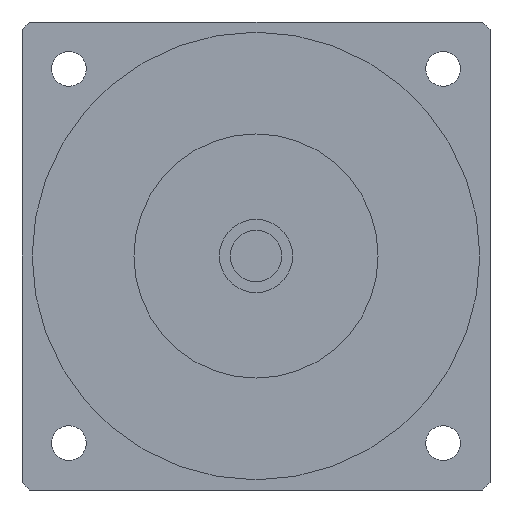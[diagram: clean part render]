
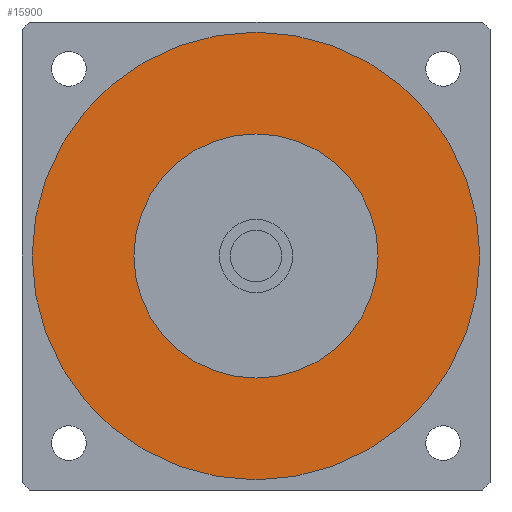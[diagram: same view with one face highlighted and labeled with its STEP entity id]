
A CAD part, left-side view. The second image highlights one B-rep face of the part: STEP entity #15900.
In plain terms, the highlighted planar face has unit normal (-1, 0, 0) as drawn and (0, 0, -1) by its records, which use the part's own axes.
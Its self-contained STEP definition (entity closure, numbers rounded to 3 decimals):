
#15320=CARTESIAN_POINT('',(55.,0.,-42.5));
#15330=VERTEX_POINT('',#15320);
#15420=CARTESIAN_POINT('',(-55.,0.,-42.5));
#15430=VERTEX_POINT('',#15420);
#15460=CARTESIAN_POINT('',(0.,0.,
-42.5));
#15470=DIRECTION('',(0.,0.,1.));
#15480=DIRECTION('',(0.,1.,0.));
#15490=AXIS2_PLACEMENT_3D('',#15460,#15470,#15480);
#15500=CIRCLE('',#15490,55.);
#15510=CARTESIAN_POINT('',(0.,55.,-42.5));
#15520=VERTEX_POINT('',#15510);
#15530=EDGE_CURVE('',#15520,#15430,#15500,.T.);
#15550=EDGE_CURVE('',#15330,#15520,#15500,.T.);
#15600=CARTESIAN_POINT('',(0.,0.,
-42.5));
#15610=DIRECTION('',(0.,0.,1.));
#15620=DIRECTION('',(-1.,0.,0.));
#15630=AXIS2_PLACEMENT_3D('',#15600,#15610,#15620);
#15640=PLANE('',#15630);
#15650=ORIENTED_EDGE('',*,*,#15530,.F.);
#15660=EDGE_CURVE('',#15430,#15330,#15500,.T.);
#15670=ORIENTED_EDGE('',*,*,#15660,.F.);
#15680=ORIENTED_EDGE('',*,*,#15550,.F.);
#15690=EDGE_LOOP('',(#15680,#15670,#15650));
#15700=FACE_OUTER_BOUND('',#15690,.T.);
#15710=CARTESIAN_POINT('',(0.,0.,
-42.5));
#15720=DIRECTION('',(0.,0.,1.));
#15730=DIRECTION('',(0.,1.,0.));
#15740=AXIS2_PLACEMENT_3D('',#15710,#15720,#15730);
#15750=CIRCLE('',#15740,30.);
#15760=CARTESIAN_POINT('',(-30.,0.,-42.5));
#15770=VERTEX_POINT('',#15760);
#15780=CARTESIAN_POINT('',(30.,0.,-42.5));
#15790=VERTEX_POINT('',#15780);
#15800=EDGE_CURVE('',#15770,#15790,#15750,.T.);
#15810=ORIENTED_EDGE('',*,*,#15800,.T.);
#15820=CARTESIAN_POINT('',(0.,30.,-42.5));
#15830=VERTEX_POINT('',#15820);
#15840=EDGE_CURVE('',#15830,#15770,#15750,.T.);
#15850=ORIENTED_EDGE('',*,*,#15840,.T.);
#15860=EDGE_CURVE('',#15790,#15830,#15750,.T.);
#15870=ORIENTED_EDGE('',*,*,#15860,.T.);
#15880=EDGE_LOOP('',(#15870,#15850,#15810));
#15890=FACE_BOUND('',#15880,.T.);
#15900=ADVANCED_FACE('',(#15700,#15890),#15640,.F.);
